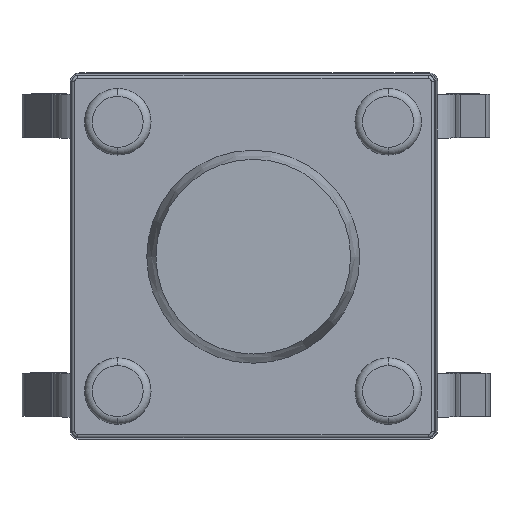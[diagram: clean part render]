
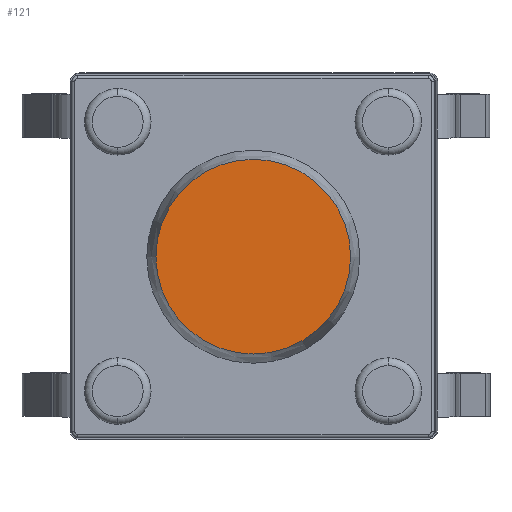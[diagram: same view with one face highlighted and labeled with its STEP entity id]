
A CAD part, top view. The second image highlights one B-rep face of the part: STEP entity #121.
In plain terms, the highlighted planar face has unit normal (0, 0, 1).
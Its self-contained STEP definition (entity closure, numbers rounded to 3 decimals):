
#58 = CONICAL_SURFACE('',#59,1.75,0.245);
#59 = AXIS2_PLACEMENT_3D('',#60,#61,#62);
#60 = CARTESIAN_POINT('',(-6.025,-0.033,3.65));
#61 = DIRECTION('',(-0.,-0.,-1.));
#62 = DIRECTION('',(1.,0.,0.));
#75 = VERTEX_POINT('',#76);
#76 = CARTESIAN_POINT('',(-4.425,-0.033,4.25));
#94 = EDGE_CURVE('',#75,#75,#95,.T.);
#95 = SURFACE_CURVE('',#96,(#101,#108),.PCURVE_S1.);
#96 = CIRCLE('',#97,1.6);
#97 = AXIS2_PLACEMENT_3D('',#98,#99,#100);
#98 = CARTESIAN_POINT('',(-6.025,-0.033,4.25));
#99 = DIRECTION('',(0.,0.,1.));
#100 = DIRECTION('',(1.,0.,0.));
#101 = PCURVE('',#58,#102);
#102 = DEFINITIONAL_REPRESENTATION('',(#103),#107);
#103 = LINE('',#104,#105);
#104 = CARTESIAN_POINT('',(-0.,-0.6));
#105 = VECTOR('',#106,1.);
#106 = DIRECTION('',(-1.,-0.));
#107 = ( GEOMETRIC_REPRESENTATION_CONTEXT(2) 
PARAMETRIC_REPRESENTATION_CONTEXT() REPRESENTATION_CONTEXT('2D SPACE',''
  ) );
#108 = PCURVE('',#109,#114);
#109 = PLANE('',#110);
#110 = AXIS2_PLACEMENT_3D('',#111,#112,#113);
#111 = CARTESIAN_POINT('',(-6.025,-0.033,4.25));
#112 = DIRECTION('',(0.,0.,1.));
#113 = DIRECTION('',(1.,0.,0.));
#114 = DEFINITIONAL_REPRESENTATION('',(#115),#119);
#115 = CIRCLE('',#116,1.6);
#116 = AXIS2_PLACEMENT_2D('',#117,#118);
#117 = CARTESIAN_POINT('',(0.,0.));
#118 = DIRECTION('',(1.,0.));
#119 = ( GEOMETRIC_REPRESENTATION_CONTEXT(2) 
PARAMETRIC_REPRESENTATION_CONTEXT() REPRESENTATION_CONTEXT('2D SPACE',''
  ) );
#121 = ADVANCED_FACE('',(#122),#109,.T.);
#122 = FACE_BOUND('',#123,.T.);
#123 = EDGE_LOOP('',(#124));
#124 = ORIENTED_EDGE('',*,*,#94,.T.);
